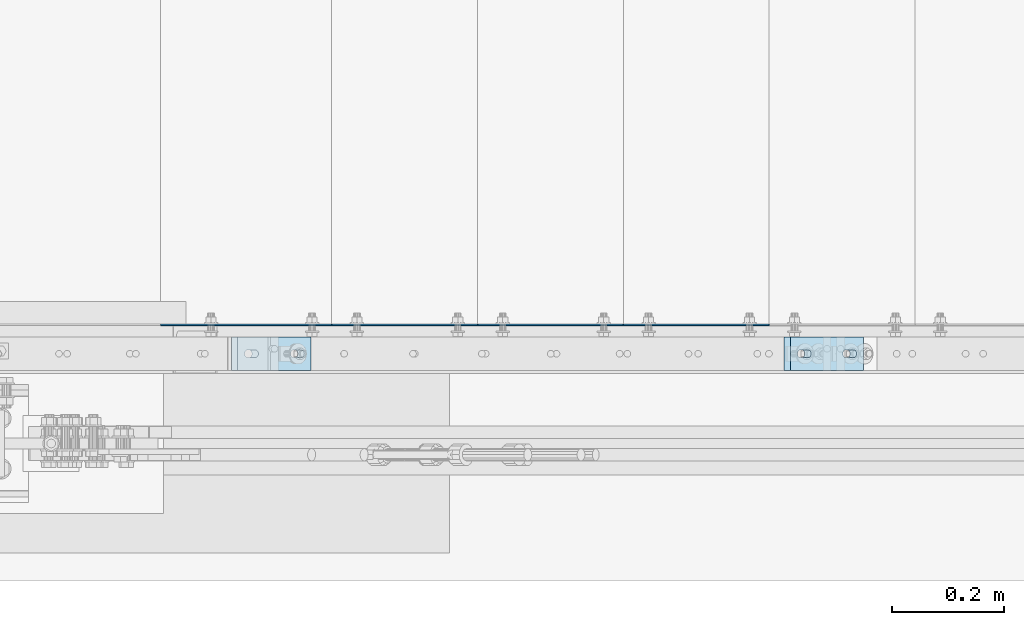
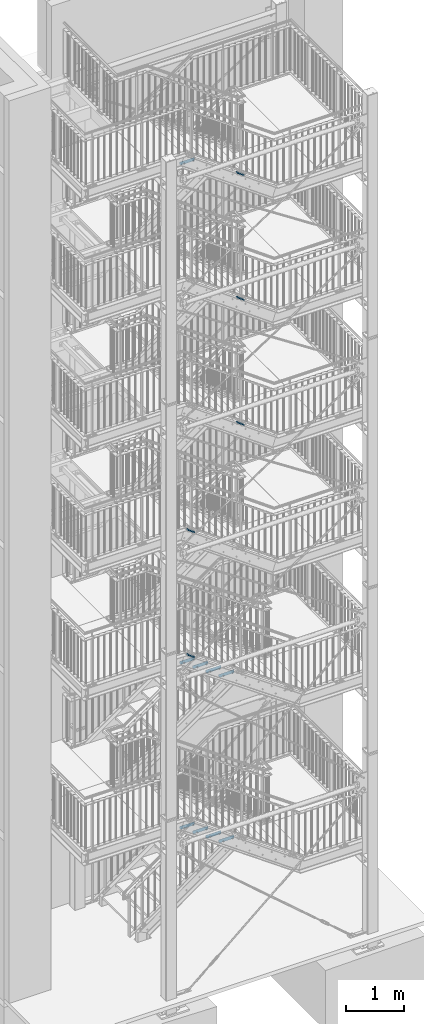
# One storey, part 170 of 831: 14 plates, 28 openings.
"""IFC2X3 building model written with IfcOpenShell, lengths in millimetres."""

from ifc_helpers import new_model, entity, si_unit, converted_unit, point, frame, frame_2d, origin, origin_with_axes, origin_2d_with_axis, place, context, project, spatial, polyline, circle_curve, line_curve, trimmed, segment, composite_curve, circle, outline, extrude, material, layer, layer_set, element, save


model = new_model("IFC2X3")

# Units and contexts
model_context = context("Model", 3, precision=1e-09, world=origin_with_axes())
ifc_project = project(units=[si_unit("LENGTHUNIT", "METRE", prefix="MILLI"), si_unit("AREAUNIT", "SQUARE_METRE"), si_unit("VOLUMEUNIT", "CUBIC_METRE"), converted_unit("PLANEANGLEUNIT", "DEGREE", entity("IfcPlaneAngleMeasure", 0.01745329), si_unit("PLANEANGLEUNIT", "RADIAN"), dimensions=[0, 0, 0, 0, 0, 0, 0])], contexts=[model_context])

# Site, building, storey
site_placement = place(None, origin_with_axes())
site = spatial("IfcSite", under=ifc_project, at=site_placement, Name="Site", CompositionType="ELEMENT")
building_placement = place(site_placement, origin_with_axes())
building = spatial("IfcBuilding", under=site, at=building_placement, Name="Struktur 1", CompositionType="ELEMENT")
storey_placement = place(building_placement, origin_with_axes())
storey = spatial("IfcBuildingStorey", under=building, at=storey_placement, Name="Default Storey", CompositionType="ELEMENT", Elevation=0.0)

# Plate, openings
ifc_material = material(Name="S235JR")
ifc_layer_1 = layer(ifc_material, 20.0)
ifc_layer_set_1 = layer_set([ifc_layer_1], Name="S235JR")
plate_1_placement = place(None, frame((6303.224338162, 4496.736971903, 11849.295542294), z_axis=(0.585213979, 0.0, 0.810878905), x_axis=(0.810878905, 0.0, -0.585213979)))
plate_1 = element("IfcPlate", 1, at=plate_1_placement, inside=storey, material=ifc_layer_set_1, Name="Plate#510", ObjectType="Plate#510", context=model_context, shape_type="SweptSolid", body=[
    extrude(outline(polyline([(0.0, 0.0), (160.0, 0.0), (160.0, 60.0), (0.0, 60.0), (0.0, 0.0)])), origin_with_axes(), (0.0, 0.0, 1.0), 20.0),
])
opening_1_placement = place(plate_1_placement, frame((38.0, 37.001, 20.5), z_axis=(0.0, 0.0, 1.0), x_axis=(-1.0, 0.0, 0.0)))
element("IfcOpeningElement", 2, at=opening_1_placement, cuts=plate_1, ObjectType="Opening", context=model_context, shape_type="SweptSolid", body=[
    extrude(outline(composite_curve([segment(trimmed(line_curve((0.0, 0.0), (1.0, 0.0), 16.0), [point((0.0, 0.0))], [point((16.0, 0.0))], True, "CARTESIAN"), True, "CONTINUOUS"), segment(trimmed(circle_curve(frame_2d((16.0, 7.001), x_axis=(1.0, 0.0)), 7.001), [point((16.0, 0.0))], [point((16.0, 14.002))], True, "CARTESIAN"), True, "CONTINUOUS"), segment(trimmed(line_curve((16.0, 14.002), (-1.0, 0.0), 16.0), [point((16.0, 14.002))], [point((0.0, 14.002))], True, "CARTESIAN"), True, "CONTINUOUS"), segment(trimmed(circle_curve(frame_2d((0.0, 7.001), x_axis=(1.0, 0.0)), 7.001), [point((0.0, 14.002))], [point((0.0, 0.0))], True, "CARTESIAN"), True, "CONTINUOUS")], self_intersect=False)), origin(), (0.0, 0.0, -1.0), 21.0),
])
opening_2_placement = place(plate_1_placement, frame((138.0, 37.001, 20.5), z_axis=(0.0, 0.0, 1.0), x_axis=(-1.0, 0.0, 0.0)))
element("IfcOpeningElement", 3, at=opening_2_placement, cuts=plate_1, ObjectType="Opening", context=model_context, shape_type="SweptSolid", body=[
    extrude(outline(composite_curve([segment(trimmed(line_curve((0.0, 0.0), (1.0, 0.0), 16.0), [point((0.0, 0.0))], [point((16.0, 0.0))], True, "CARTESIAN"), True, "CONTINUOUS"), segment(trimmed(circle_curve(frame_2d((16.0, 7.001), x_axis=(1.0, 0.0)), 7.001), [point((16.0, 0.0))], [point((16.0, 14.002))], True, "CARTESIAN"), True, "CONTINUOUS"), segment(trimmed(line_curve((16.0, 14.002), (-1.0, 0.0), 16.0), [point((16.0, 14.002))], [point((0.0, 14.002))], True, "CARTESIAN"), True, "CONTINUOUS"), segment(trimmed(circle_curve(frame_2d((0.0, 7.001), x_axis=(1.0, 0.0)), 7.001), [point((0.0, 14.002))], [point((0.0, 0.0))], True, "CARTESIAN"), True, "CONTINUOUS")], self_intersect=False)), origin(), (0.0, 0.0, -1.0), 21.0),
])

plate_2_placement = place(None, frame((6303.296368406, 4496.736971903, 14481.899419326), z_axis=(0.586383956, 0.0, 0.810033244), x_axis=(0.810033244, 0.0, -0.586383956)))
plate_2 = element("IfcPlate", 4, at=plate_2_placement, inside=storey, material=ifc_layer_set_1, Name="Plate#510", ObjectType="Plate#510", context=model_context, shape_type="SweptSolid", body=[
    extrude(outline(polyline([(0.0, 0.0), (160.0, 0.0), (160.0, 60.0), (0.0, 60.0), (0.0, 0.0)])), origin_with_axes(), (0.0, 0.0, 1.0), 20.0),
])
opening_3_placement = place(plate_2_placement, frame((38.0, 37.001, 20.5), z_axis=(0.0, 0.0, 1.0), x_axis=(-1.0, 0.0, 0.0)))
element("IfcOpeningElement", 5, at=opening_3_placement, cuts=plate_2, ObjectType="Opening", context=model_context, shape_type="SweptSolid", body=[
    extrude(outline(composite_curve([segment(trimmed(line_curve((0.0, 0.0), (1.0, 0.0), 16.0), [point((0.0, 0.0))], [point((16.0, 0.0))], True, "CARTESIAN"), True, "CONTINUOUS"), segment(trimmed(circle_curve(frame_2d((16.0, 7.001), x_axis=(1.0, 0.0)), 7.001), [point((16.0, 0.0))], [point((16.0, 14.002))], True, "CARTESIAN"), True, "CONTINUOUS"), segment(trimmed(line_curve((16.0, 14.002), (-1.0, 0.0), 16.0), [point((16.0, 14.002))], [point((0.0, 14.002))], True, "CARTESIAN"), True, "CONTINUOUS"), segment(trimmed(circle_curve(frame_2d((0.0, 7.001), x_axis=(1.0, 0.0)), 7.001), [point((0.0, 14.002))], [point((0.0, 0.0))], True, "CARTESIAN"), True, "CONTINUOUS")], self_intersect=False)), origin(), (0.0, 0.0, -1.0), 21.0),
])
opening_4_placement = place(plate_2_placement, frame((138.0, 37.001, 20.5), z_axis=(0.0, 0.0, 1.0), x_axis=(-1.0, 0.0, 0.0)))
element("IfcOpeningElement", 6, at=opening_4_placement, cuts=plate_2, ObjectType="Opening", context=model_context, shape_type="SweptSolid", body=[
    extrude(outline(composite_curve([segment(trimmed(line_curve((0.0, 0.0), (1.0, 0.0), 16.0), [point((0.0, 0.0))], [point((16.0, 0.0))], True, "CARTESIAN"), True, "CONTINUOUS"), segment(trimmed(circle_curve(frame_2d((16.0, 7.001), x_axis=(1.0, 0.0)), 7.001), [point((16.0, 0.0))], [point((16.0, 14.002))], True, "CARTESIAN"), True, "CONTINUOUS"), segment(trimmed(line_curve((16.0, 14.002), (-1.0, 0.0), 16.0), [point((16.0, 14.002))], [point((0.0, 14.002))], True, "CARTESIAN"), True, "CONTINUOUS"), segment(trimmed(circle_curve(frame_2d((0.0, 7.001), x_axis=(1.0, 0.0)), 7.001), [point((0.0, 14.002))], [point((0.0, 0.0))], True, "CARTESIAN"), True, "CONTINUOUS")], self_intersect=False)), origin(), (0.0, 0.0, -1.0), 21.0),
])

plate_3_placement = place(None, frame((6303.161306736, 4496.736971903, 17106.391893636), z_axis=(0.584187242, 0.0, 0.811618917), x_axis=(0.811618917, 0.0, -0.584187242)))
plate_3 = element("IfcPlate", 7, at=plate_3_placement, inside=storey, material=ifc_layer_set_1, Name="Plate#510", ObjectType="Plate#510", context=model_context, shape_type="SweptSolid", body=[
    extrude(outline(polyline([(0.0, 0.0), (160.0, 0.0), (160.0, 60.0), (0.0, 60.0), (0.0, 0.0)])), origin_with_axes(), (0.0, 0.0, 1.0), 20.0),
])
opening_5_placement = place(plate_3_placement, frame((38.0, 37.001, 20.5), z_axis=(0.0, 0.0, 1.0), x_axis=(-1.0, 0.0, 0.0)))
element("IfcOpeningElement", 8, at=opening_5_placement, cuts=plate_3, ObjectType="Opening", context=model_context, shape_type="SweptSolid", body=[
    extrude(outline(composite_curve([segment(trimmed(line_curve((0.0, 0.0), (1.0, 0.0), 16.0), [point((0.0, 0.0))], [point((16.0, 0.0))], True, "CARTESIAN"), True, "CONTINUOUS"), segment(trimmed(circle_curve(frame_2d((16.0, 7.001), x_axis=(1.0, 0.0)), 7.001), [point((16.0, 0.0))], [point((16.0, 14.002))], True, "CARTESIAN"), True, "CONTINUOUS"), segment(trimmed(line_curve((16.0, 14.002), (-1.0, 0.0), 16.0), [point((16.0, 14.002))], [point((0.0, 14.002))], True, "CARTESIAN"), True, "CONTINUOUS"), segment(trimmed(circle_curve(frame_2d((0.0, 7.001), x_axis=(1.0, 0.0)), 7.001), [point((0.0, 14.002))], [point((0.0, 0.0))], True, "CARTESIAN"), True, "CONTINUOUS")], self_intersect=False)), origin(), (0.0, 0.0, -1.0), 21.0),
])
opening_6_placement = place(plate_3_placement, frame((138.0, 37.001, 20.5), z_axis=(0.0, 0.0, 1.0), x_axis=(-1.0, 0.0, 0.0)))
element("IfcOpeningElement", 9, at=opening_6_placement, cuts=plate_3, ObjectType="Opening", context=model_context, shape_type="SweptSolid", body=[
    extrude(outline(composite_curve([segment(trimmed(line_curve((0.0, 0.0), (1.0, 0.0), 16.0), [point((0.0, 0.0))], [point((16.0, 0.0))], True, "CARTESIAN"), True, "CONTINUOUS"), segment(trimmed(circle_curve(frame_2d((16.0, 7.001), x_axis=(1.0, 0.0)), 7.001), [point((16.0, 0.0))], [point((16.0, 14.002))], True, "CARTESIAN"), True, "CONTINUOUS"), segment(trimmed(line_curve((16.0, 14.002), (-1.0, 0.0), 16.0), [point((16.0, 14.002))], [point((0.0, 14.002))], True, "CARTESIAN"), True, "CONTINUOUS"), segment(trimmed(circle_curve(frame_2d((0.0, 7.001), x_axis=(1.0, 0.0)), 7.001), [point((0.0, 14.002))], [point((0.0, 0.0))], True, "CARTESIAN"), True, "CONTINUOUS")], self_intersect=False)), origin(), (0.0, 0.0, -1.0), 21.0),
])

ifc_layer_2 = layer(ifc_material, 3.0)
ifc_layer_set_2 = layer_set([ifc_layer_2], Name="S235JR")
plate_4_placement = place(None, frame((5496.713402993, 4576.736971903, 17686.8571429), z_axis=(0.0, 1.0, 0.0), x_axis=(0.0, 0.0, -1.0)))
plate_4 = element("IfcPlate", 10, at=plate_4_placement, inside=storey, material=ifc_layer_set_2, Name="Grate_Step#37", ObjectType="Grate_Step#37", context=model_context, shape_type="SweptSolid", body=[
    extrude(outline(polyline([(0.0, 0.0), (70.0, 0.0), (70.0, 275.0), (40.0, 305.0), (0.0, 305.0), (0.0, 0.0)])), origin_with_axes(), (0.0, 0.0, 1.0), 3.0),
])
opening_7_placement = place(plate_4_placement, frame((55.0, 35.0, 3.5), z_axis=(0.0, 0.0, -1.0), x_axis=(0.0, 1.0, 0.0)))
element("IfcOpeningElement", 11, at=opening_7_placement, cuts=plate_4, ObjectType="Opening", context=model_context, shape_type="SweptSolid", body=[
    extrude(circle(Radius=7.001, at=origin_2d_with_axis()), origin(), (0.0, 0.0, 1.0), 4.0),
])
opening_8_placement = place(plate_4_placement, frame((55.0, 215.0, 3.5), z_axis=(0.0, 0.0, -1.0), x_axis=(0.0, 1.0, 0.0)))
element("IfcOpeningElement", 12, at=opening_8_placement, cuts=plate_4, ObjectType="Opening", context=model_context, shape_type="SweptSolid", body=[
    extrude(outline(composite_curve([segment(trimmed(line_curve((-9.5, -7.001), (1.0, 0.0), 19.0), [point((-9.5, -7.001))], [point((9.5, -7.001))], True, "CARTESIAN"), True, "CONTINUOUS"), segment(trimmed(circle_curve(frame_2d((9.5, 0.0), x_axis=(1.0, 0.0)), 7.001), [point((9.5, -7.001))], [point((9.5, 7.001))], True, "CARTESIAN"), True, "CONTINUOUS"), segment(trimmed(line_curve((9.5, 7.001), (-1.0, 0.0), 19.0), [point((9.5, 7.001))], [point((-9.5, 7.001))], True, "CARTESIAN"), True, "CONTINUOUS"), segment(trimmed(circle_curve(frame_2d((-9.5, 0.0), x_axis=(1.0, 0.0)), 7.001), [point((-9.5, 7.001))], [point((-9.5, -7.001))], True, "CARTESIAN"), True, "CONTINUOUS")], self_intersect=False)), origin(), (0.0, 0.0, 1.0), 4.0),
])

plate_5_placement = place(None, frame((5756.713402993, 4576.736971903, 3516.7894736), z_axis=(0.0, 1.0, 0.0), x_axis=(0.0, 0.0, -1.0)))
plate_5 = element("IfcPlate", 13, at=plate_5_placement, inside=storey, material=ifc_layer_set_2, Name="Grate_Step#44", ObjectType="Grate_Step#44", context=model_context, shape_type="SweptSolid", body=[
    extrude(outline(polyline([(0.0, 0.0), (70.0, 0.0), (70.0, 275.0), (40.0, 305.0), (0.0, 305.0), (0.0, 0.0)])), origin_with_axes(), (0.0, 0.0, 1.0), 3.0),
])
opening_9_placement = place(plate_5_placement, frame((55.0, 35.0, 3.5), z_axis=(0.0, 0.0, -1.0), x_axis=(0.0, 1.0, 0.0)))
element("IfcOpeningElement", 14, at=opening_9_placement, cuts=plate_5, ObjectType="Opening", context=model_context, shape_type="SweptSolid", body=[
    extrude(circle(Radius=7.001, at=origin_2d_with_axis()), origin(), (0.0, 0.0, 1.0), 4.0),
])
opening_10_placement = place(plate_5_placement, frame((55.0, 215.0, 3.5), z_axis=(0.0, 0.0, -1.0), x_axis=(0.0, 1.0, 0.0)))
element("IfcOpeningElement", 15, at=opening_10_placement, cuts=plate_5, ObjectType="Opening", context=model_context, shape_type="SweptSolid", body=[
    extrude(outline(composite_curve([segment(trimmed(line_curve((-9.5, -7.001), (1.0, 0.0), 19.0), [point((-9.5, -7.001))], [point((9.5, -7.001))], True, "CARTESIAN"), True, "CONTINUOUS"), segment(trimmed(circle_curve(frame_2d((9.5, 0.0), x_axis=(1.0, 0.0)), 7.001), [point((9.5, -7.001))], [point((9.5, 7.001))], True, "CARTESIAN"), True, "CONTINUOUS"), segment(trimmed(line_curve((9.5, 7.001), (-1.0, 0.0), 19.0), [point((9.5, 7.001))], [point((-9.5, 7.001))], True, "CARTESIAN"), True, "CONTINUOUS"), segment(trimmed(circle_curve(frame_2d((-9.5, 0.0), x_axis=(1.0, 0.0)), 7.001), [point((-9.5, 7.001))], [point((-9.5, -7.001))], True, "CARTESIAN"), True, "CONTINUOUS")], self_intersect=False)), origin(), (0.0, 0.0, 1.0), 4.0),
])

plate_6_placement = place(None, frame((6016.713402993, 4576.736971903, 3331.6842104), z_axis=(0.0, 1.0, 0.0), x_axis=(0.0, 0.0, -1.0)))
plate_6 = element("IfcPlate", 16, at=plate_6_placement, inside=storey, material=ifc_layer_set_2, Name="Grate_Step#37", ObjectType="Grate_Step#37", context=model_context, shape_type="SweptSolid", body=[
    extrude(outline(polyline([(0.0, 0.0), (70.0, 0.0), (70.0, 275.0), (40.0, 305.0), (0.0, 305.0), (0.0, 0.0)])), origin_with_axes(), (0.0, 0.0, 1.0), 3.0),
])
opening_11_placement = place(plate_6_placement, frame((55.0, 215.0, 3.5), z_axis=(0.0, 0.0, -1.0), x_axis=(0.0, 1.0, 0.0)))
element("IfcOpeningElement", 17, at=opening_11_placement, cuts=plate_6, ObjectType="Opening", context=model_context, shape_type="SweptSolid", body=[
    extrude(outline(composite_curve([segment(trimmed(line_curve((-9.5, -7.001), (1.0, 0.0), 19.0), [point((-9.5, -7.001))], [point((9.5, -7.001))], True, "CARTESIAN"), True, "CONTINUOUS"), segment(trimmed(circle_curve(frame_2d((9.5, 0.0), x_axis=(1.0, 0.0)), 7.001), [point((9.5, -7.001))], [point((9.5, 7.001))], True, "CARTESIAN"), True, "CONTINUOUS"), segment(trimmed(line_curve((9.5, 7.001), (-1.0, 0.0), 19.0), [point((9.5, 7.001))], [point((-9.5, 7.001))], True, "CARTESIAN"), True, "CONTINUOUS"), segment(trimmed(circle_curve(frame_2d((-9.5, 0.0), x_axis=(1.0, 0.0)), 7.001), [point((-9.5, 7.001))], [point((-9.5, -7.001))], True, "CARTESIAN"), True, "CONTINUOUS")], self_intersect=False)), origin(), (0.0, 0.0, 1.0), 4.0),
])
opening_12_placement = place(plate_6_placement, frame((55.0, 35.0, 3.5), z_axis=(0.0, 0.0, -1.0), x_axis=(0.0, 1.0, 0.0)))
element("IfcOpeningElement", 18, at=opening_12_placement, cuts=plate_6, ObjectType="Opening", context=model_context, shape_type="SweptSolid", body=[
    extrude(circle(Radius=7.001, at=origin_2d_with_axis()), origin(), (0.0, 0.0, 1.0), 4.0),
])

plate_7_placement = place(None, frame((6016.713402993, 4576.736971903, 6811.6315789), z_axis=(0.0, 1.0, 0.0), x_axis=(0.0, 0.0, -1.0)))
plate_7 = element("IfcPlate", 19, at=plate_7_placement, inside=storey, material=ifc_layer_set_2, Name="Grate_Step#37", ObjectType="Grate_Step#37", context=model_context, shape_type="SweptSolid", body=[
    extrude(outline(polyline([(0.0, 0.0), (70.0, 0.0), (70.0, 275.0), (40.0, 305.0), (0.0, 305.0), (0.0, 0.0)])), origin_with_axes(), (0.0, 0.0, 1.0), 3.0),
])
opening_13_placement = place(plate_7_placement, frame((55.0, 215.0, 3.5), z_axis=(0.0, 0.0, -1.0), x_axis=(0.0, 1.0, 0.0)))
element("IfcOpeningElement", 20, at=opening_13_placement, cuts=plate_7, ObjectType="Opening", context=model_context, shape_type="SweptSolid", body=[
    extrude(outline(composite_curve([segment(trimmed(line_curve((-9.5, -7.001), (1.0, 0.0), 19.0), [point((-9.5, -7.001))], [point((9.5, -7.001))], True, "CARTESIAN"), True, "CONTINUOUS"), segment(trimmed(circle_curve(frame_2d((9.5, 0.0), x_axis=(1.0, 0.0)), 7.001), [point((9.5, -7.001))], [point((9.5, 7.001))], True, "CARTESIAN"), True, "CONTINUOUS"), segment(trimmed(line_curve((9.5, 7.001), (-1.0, 0.0), 19.0), [point((9.5, 7.001))], [point((-9.5, 7.001))], True, "CARTESIAN"), True, "CONTINUOUS"), segment(trimmed(circle_curve(frame_2d((-9.5, 0.0), x_axis=(1.0, 0.0)), 7.001), [point((-9.5, 7.001))], [point((-9.5, -7.001))], True, "CARTESIAN"), True, "CONTINUOUS")], self_intersect=False)), origin(), (0.0, 0.0, 1.0), 4.0),
])
opening_14_placement = place(plate_7_placement, frame((55.0, 35.0, 3.5), z_axis=(0.0, 0.0, -1.0), x_axis=(0.0, 1.0, 0.0)))
element("IfcOpeningElement", 21, at=opening_14_placement, cuts=plate_7, ObjectType="Opening", context=model_context, shape_type="SweptSolid", body=[
    extrude(circle(Radius=7.001, at=origin_2d_with_axis()), origin(), (0.0, 0.0, 1.0), 4.0),
])

plate_8_placement = place(None, frame((6276.713402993, 4576.736971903, 6628.8421052), z_axis=(0.0, 1.0, 0.0), x_axis=(0.0, 0.0, -1.0)))
plate_8 = element("IfcPlate", 22, at=plate_8_placement, inside=storey, material=ifc_layer_set_2, Name="Grate_Step#30", ObjectType="Grate_Step#30", context=model_context, shape_type="SweptSolid", body=[
    extrude(outline(polyline([(0.0, 0.0), (70.0, 0.0), (70.0, 275.0), (40.0, 305.0), (0.0, 305.0), (0.0, 0.0)])), origin_with_axes(), (0.0, 0.0, 1.0), 3.0),
])
opening_15_placement = place(plate_8_placement, frame((55.0, 35.0, 3.5), z_axis=(0.0, 0.0, -1.0), x_axis=(0.0, 1.0, 0.0)))
element("IfcOpeningElement", 23, at=opening_15_placement, cuts=plate_8, ObjectType="Opening", context=model_context, shape_type="SweptSolid", body=[
    extrude(circle(Radius=7.001, at=origin_2d_with_axis()), origin(), (0.0, 0.0, 1.0), 4.0),
])
opening_16_placement = place(plate_8_placement, frame((55.0, 215.0, 3.5), z_axis=(0.0, 0.0, -1.0), x_axis=(0.0, 1.0, 0.0)))
element("IfcOpeningElement", 24, at=opening_16_placement, cuts=plate_8, ObjectType="Opening", context=model_context, shape_type="SweptSolid", body=[
    extrude(outline(composite_curve([segment(trimmed(line_curve((-9.5, -7.001), (1.0, 0.0), 19.0), [point((-9.5, -7.001))], [point((9.5, -7.001))], True, "CARTESIAN"), True, "CONTINUOUS"), segment(trimmed(circle_curve(frame_2d((9.5, 0.0), x_axis=(1.0, 0.0)), 7.001), [point((9.5, -7.001))], [point((9.5, 7.001))], True, "CARTESIAN"), True, "CONTINUOUS"), segment(trimmed(line_curve((9.5, 7.001), (-1.0, 0.0), 19.0), [point((9.5, 7.001))], [point((-9.5, 7.001))], True, "CARTESIAN"), True, "CONTINUOUS"), segment(trimmed(circle_curve(frame_2d((-9.5, 0.0), x_axis=(1.0, 0.0)), 7.001), [point((-9.5, 7.001))], [point((-9.5, -7.001))], True, "CARTESIAN"), True, "CONTINUOUS")], self_intersect=False)), origin(), (0.0, 0.0, 1.0), 4.0),
])

plate_9_placement = place(None, frame((5496.713402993, 4576.736971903, 7177.2105263), z_axis=(0.0, 1.0, 0.0), x_axis=(0.0, 0.0, -1.0)))
plate_9 = element("IfcPlate", 25, at=plate_9_placement, inside=storey, material=ifc_layer_set_2, Name="Grate_Step#51", ObjectType="Grate_Step#51", context=model_context, shape_type="SweptSolid", body=[
    extrude(outline(polyline([(0.0, 0.0), (70.0, 0.0), (70.0, 275.0), (40.0, 305.0), (0.0, 305.0), (0.0, 0.0)])), origin_with_axes(), (0.0, 0.0, 1.0), 3.0),
])
opening_17_placement = place(plate_9_placement, frame((55.0, 215.0, 3.5), z_axis=(0.0, 0.0, -1.0), x_axis=(0.0, 1.0, 0.0)))
element("IfcOpeningElement", 26, at=opening_17_placement, cuts=plate_9, ObjectType="Opening", context=model_context, shape_type="SweptSolid", body=[
    extrude(outline(composite_curve([segment(trimmed(line_curve((-9.5, -7.001), (1.0, 0.0), 19.0), [point((-9.5, -7.001))], [point((9.5, -7.001))], True, "CARTESIAN"), True, "CONTINUOUS"), segment(trimmed(circle_curve(frame_2d((9.5, 0.0), x_axis=(1.0, 0.0)), 7.001), [point((9.5, -7.001))], [point((9.5, 7.001))], True, "CARTESIAN"), True, "CONTINUOUS"), segment(trimmed(line_curve((9.5, 7.001), (-1.0, 0.0), 19.0), [point((9.5, 7.001))], [point((-9.5, 7.001))], True, "CARTESIAN"), True, "CONTINUOUS"), segment(trimmed(circle_curve(frame_2d((-9.5, 0.0), x_axis=(1.0, 0.0)), 7.001), [point((-9.5, 7.001))], [point((-9.5, -7.001))], True, "CARTESIAN"), True, "CONTINUOUS")], self_intersect=False)), origin(), (0.0, 0.0, 1.0), 4.0),
])
opening_18_placement = place(plate_9_placement, frame((55.0, 35.0, 3.5), z_axis=(0.0, 0.0, -1.0), x_axis=(0.0, 1.0, 0.0)))
element("IfcOpeningElement", 27, at=opening_18_placement, cuts=plate_9, ObjectType="Opening", context=model_context, shape_type="SweptSolid", body=[
    extrude(circle(Radius=7.001, at=origin_2d_with_axis()), origin(), (0.0, 0.0, 1.0), 4.0),
])

plate_10_placement = place(None, frame((5496.713402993, 4576.736971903, 3701.8947368), z_axis=(0.0, 1.0, 0.0), x_axis=(0.0, 0.0, -1.0)))
plate_10 = element("IfcPlate", 28, at=plate_10_placement, inside=storey, material=ifc_layer_set_2, Name="Grate_Step#51", ObjectType="Grate_Step#51", context=model_context, shape_type="SweptSolid", body=[
    extrude(outline(polyline([(0.0, 0.0), (70.0, 0.0), (70.0, 275.0), (40.0, 305.0), (0.0, 305.0), (0.0, 0.0)])), origin_with_axes(), (0.0, 0.0, 1.0), 3.0),
])
opening_19_placement = place(plate_10_placement, frame((55.0, 215.0, 3.5), z_axis=(0.0, 0.0, -1.0), x_axis=(0.0, 1.0, 0.0)))
element("IfcOpeningElement", 29, at=opening_19_placement, cuts=plate_10, ObjectType="Opening", context=model_context, shape_type="SweptSolid", body=[
    extrude(outline(composite_curve([segment(trimmed(line_curve((-9.5, -7.001), (1.0, 0.0), 19.0), [point((-9.5, -7.001))], [point((9.5, -7.001))], True, "CARTESIAN"), True, "CONTINUOUS"), segment(trimmed(circle_curve(frame_2d((9.5, 0.0), x_axis=(1.0, 0.0)), 7.001), [point((9.5, -7.001))], [point((9.5, 7.001))], True, "CARTESIAN"), True, "CONTINUOUS"), segment(trimmed(line_curve((9.5, 7.001), (-1.0, 0.0), 19.0), [point((9.5, 7.001))], [point((-9.5, 7.001))], True, "CARTESIAN"), True, "CONTINUOUS"), segment(trimmed(circle_curve(frame_2d((-9.5, 0.0), x_axis=(1.0, 0.0)), 7.001), [point((-9.5, 7.001))], [point((-9.5, -7.001))], True, "CARTESIAN"), True, "CONTINUOUS")], self_intersect=False)), origin(), (0.0, 0.0, 1.0), 4.0),
])
opening_20_placement = place(plate_10_placement, frame((55.0, 35.0, 3.5), z_axis=(0.0, 0.0, -1.0), x_axis=(0.0, 1.0, 0.0)))
element("IfcOpeningElement", 30, at=opening_20_placement, cuts=plate_10, ObjectType="Opening", context=model_context, shape_type="SweptSolid", body=[
    extrude(circle(Radius=7.001, at=origin_2d_with_axis()), origin(), (0.0, 0.0, 1.0), 4.0),
])

plate_11_placement = place(None, frame((6276.713402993, 4576.736971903, 3146.5789472), z_axis=(0.0, 1.0, 0.0), x_axis=(0.0, 0.0, -1.0)))
plate_11 = element("IfcPlate", 31, at=plate_11_placement, inside=storey, material=ifc_layer_set_2, Name="Grate_Step#30", ObjectType="Grate_Step#30", context=model_context, shape_type="SweptSolid", body=[
    extrude(outline(polyline([(0.0, 0.0), (70.0, 0.0), (70.0, 275.0), (40.0, 305.0), (0.0, 305.0), (0.0, 0.0)])), origin_with_axes(), (0.0, 0.0, 1.0), 3.0),
])
opening_21_placement = place(plate_11_placement, frame((55.0, 35.0, 3.5), z_axis=(0.0, 0.0, -1.0), x_axis=(0.0, 1.0, 0.0)))
element("IfcOpeningElement", 32, at=opening_21_placement, cuts=plate_11, ObjectType="Opening", context=model_context, shape_type="SweptSolid", body=[
    extrude(circle(Radius=7.001, at=origin_2d_with_axis()), origin(), (0.0, 0.0, 1.0), 4.0),
])
opening_22_placement = place(plate_11_placement, frame((55.0, 215.0, 3.5), z_axis=(0.0, 0.0, -1.0), x_axis=(0.0, 1.0, 0.0)))
element("IfcOpeningElement", 33, at=opening_22_placement, cuts=plate_11, ObjectType="Opening", context=model_context, shape_type="SweptSolid", body=[
    extrude(outline(composite_curve([segment(trimmed(line_curve((-9.5, -7.001), (1.0, 0.0), 19.0), [point((-9.5, -7.001))], [point((9.5, -7.001))], True, "CARTESIAN"), True, "CONTINUOUS"), segment(trimmed(circle_curve(frame_2d((9.5, 0.0), x_axis=(1.0, 0.0)), 7.001), [point((9.5, -7.001))], [point((9.5, 7.001))], True, "CARTESIAN"), True, "CONTINUOUS"), segment(trimmed(line_curve((9.5, 7.001), (-1.0, 0.0), 19.0), [point((9.5, 7.001))], [point((-9.5, 7.001))], True, "CARTESIAN"), True, "CONTINUOUS"), segment(trimmed(circle_curve(frame_2d((-9.5, 0.0), x_axis=(1.0, 0.0)), 7.001), [point((-9.5, 7.001))], [point((-9.5, -7.001))], True, "CARTESIAN"), True, "CONTINUOUS")], self_intersect=False)), origin(), (0.0, 0.0, 1.0), 4.0),
])

plate_12_placement = place(None, frame((5756.713402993, 4576.736971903, 6994.4210526), z_axis=(0.0, 1.0, 0.0), x_axis=(0.0, 0.0, -1.0)))
plate_12 = element("IfcPlate", 34, at=plate_12_placement, inside=storey, material=ifc_layer_set_2, Name="Grate_Step#44", ObjectType="Grate_Step#44", context=model_context, shape_type="SweptSolid", body=[
    extrude(outline(polyline([(0.0, 0.0), (70.0, 0.0), (70.0, 275.0), (40.0, 305.0), (0.0, 305.0), (0.0, 0.0)])), origin_with_axes(), (0.0, 0.0, 1.0), 3.0),
])
opening_23_placement = place(plate_12_placement, frame((55.0, 215.0, 3.5), z_axis=(0.0, 0.0, -1.0), x_axis=(0.0, 1.0, 0.0)))
element("IfcOpeningElement", 35, at=opening_23_placement, cuts=plate_12, ObjectType="Opening", context=model_context, shape_type="SweptSolid", body=[
    extrude(outline(composite_curve([segment(trimmed(line_curve((-9.5, -7.001), (1.0, 0.0), 19.0), [point((-9.5, -7.001))], [point((9.5, -7.001))], True, "CARTESIAN"), True, "CONTINUOUS"), segment(trimmed(circle_curve(frame_2d((9.5, 0.0), x_axis=(1.0, 0.0)), 7.001), [point((9.5, -7.001))], [point((9.5, 7.001))], True, "CARTESIAN"), True, "CONTINUOUS"), segment(trimmed(line_curve((9.5, 7.001), (-1.0, 0.0), 19.0), [point((9.5, 7.001))], [point((-9.5, 7.001))], True, "CARTESIAN"), True, "CONTINUOUS"), segment(trimmed(circle_curve(frame_2d((-9.5, 0.0), x_axis=(1.0, 0.0)), 7.001), [point((-9.5, 7.001))], [point((-9.5, -7.001))], True, "CARTESIAN"), True, "CONTINUOUS")], self_intersect=False)), origin(), (0.0, 0.0, 1.0), 4.0),
])
opening_24_placement = place(plate_12_placement, frame((55.0, 35.0, 3.5), z_axis=(0.0, 0.0, -1.0), x_axis=(0.0, 1.0, 0.0)))
element("IfcOpeningElement", 36, at=opening_24_placement, cuts=plate_12, ObjectType="Opening", context=model_context, shape_type="SweptSolid", body=[
    extrude(circle(Radius=7.001, at=origin_2d_with_axis()), origin(), (0.0, 0.0, 1.0), 4.0),
])

plate_13_placement = place(None, frame((5317.774118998, 4496.736971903, 7303.011363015), z_axis=(0.57512827, 0.0, 0.818063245), x_axis=(0.818063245, 0.0, -0.57512827)))
plate_13 = element("IfcPlate", 37, at=plate_13_placement, inside=storey, material=ifc_layer_set_1, Name="Plate#511", ObjectType="Plate#511", context=model_context, shape_type="SweptSolid", body=[
    extrude(outline(polyline([(0.0, 0.0), (160.0, 0.0), (160.0, 60.0), (0.0, 60.0), (0.0, 0.0)])), origin_with_axes(), (0.0, 0.0, 1.0), 20.0),
])
opening_25_placement = place(plate_13_placement, frame((38.0, 37.001, 20.5), z_axis=(0.0, 0.0, 1.0), x_axis=(-1.0, 0.0, 0.0)))
element("IfcOpeningElement", 38, at=opening_25_placement, cuts=plate_13, ObjectType="Opening", context=model_context, shape_type="SweptSolid", body=[
    extrude(outline(composite_curve([segment(trimmed(line_curve((0.0, 0.0), (1.0, 0.0), 16.0), [point((0.0, 0.0))], [point((16.0, 0.0))], True, "CARTESIAN"), True, "CONTINUOUS"), segment(trimmed(circle_curve(frame_2d((16.0, 7.001), x_axis=(1.0, 0.0)), 7.001), [point((16.0, 0.0))], [point((16.0, 14.002))], True, "CARTESIAN"), True, "CONTINUOUS"), segment(trimmed(line_curve((16.0, 14.002), (-1.0, 0.0), 16.0), [point((16.0, 14.002))], [point((0.0, 14.002))], True, "CARTESIAN"), True, "CONTINUOUS"), segment(trimmed(circle_curve(frame_2d((0.0, 7.001), x_axis=(1.0, 0.0)), 7.001), [point((0.0, 14.002))], [point((0.0, 0.0))], True, "CARTESIAN"), True, "CONTINUOUS")], self_intersect=False)), origin(), (0.0, 0.0, -1.0), 21.0),
])
opening_26_placement = place(plate_13_placement, frame((138.0, 37.001, 20.5), z_axis=(0.0, 0.0, 1.0), x_axis=(-1.0, 0.0, 0.0)))
element("IfcOpeningElement", 39, at=opening_26_placement, cuts=plate_13, ObjectType="Opening", context=model_context, shape_type="SweptSolid", body=[
    extrude(outline(composite_curve([segment(trimmed(line_curve((0.0, 0.0), (1.0, 0.0), 16.0), [point((0.0, 0.0))], [point((16.0, 0.0))], True, "CARTESIAN"), True, "CONTINUOUS"), segment(trimmed(circle_curve(frame_2d((16.0, 7.001), x_axis=(1.0, 0.0)), 7.001), [point((16.0, 0.0))], [point((16.0, 14.002))], True, "CARTESIAN"), True, "CONTINUOUS"), segment(trimmed(line_curve((16.0, 14.002), (-1.0, 0.0), 16.0), [point((16.0, 14.002))], [point((0.0, 14.002))], True, "CARTESIAN"), True, "CONTINUOUS"), segment(trimmed(circle_curve(frame_2d((0.0, 7.001), x_axis=(1.0, 0.0)), 7.001), [point((0.0, 14.002))], [point((0.0, 0.0))], True, "CARTESIAN"), True, "CONTINUOUS")], self_intersect=False)), origin(), (0.0, 0.0, -1.0), 21.0),
])

plate_14_placement = place(None, frame((5318.269214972, 4496.736971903, 9933.028874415), z_axis=(0.585945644, 0.0, 0.810350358), x_axis=(0.810350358, 0.0, -0.585945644)))
plate_14 = element("IfcPlate", 40, at=plate_14_placement, inside=storey, material=ifc_layer_set_1, Name="Plate#511", ObjectType="Plate#511", context=model_context, shape_type="SweptSolid", body=[
    extrude(outline(polyline([(0.0, 0.0), (160.0, 0.0), (160.0, 60.0), (0.0, 60.0), (0.0, 0.0)])), origin_with_axes(), (0.0, 0.0, 1.0), 20.0),
])
opening_27_placement = place(plate_14_placement, frame((38.0, 37.001, 20.5), z_axis=(0.0, 0.0, 1.0), x_axis=(-1.0, 0.0, 0.0)))
element("IfcOpeningElement", 41, at=opening_27_placement, cuts=plate_14, ObjectType="Opening", context=model_context, shape_type="SweptSolid", body=[
    extrude(outline(composite_curve([segment(trimmed(line_curve((0.0, 0.0), (1.0, 0.0), 16.0), [point((0.0, 0.0))], [point((16.0, 0.0))], True, "CARTESIAN"), True, "CONTINUOUS"), segment(trimmed(circle_curve(frame_2d((16.0, 7.001), x_axis=(1.0, 0.0)), 7.001), [point((16.0, 0.0))], [point((16.0, 14.002))], True, "CARTESIAN"), True, "CONTINUOUS"), segment(trimmed(line_curve((16.0, 14.002), (-1.0, 0.0), 16.0), [point((16.0, 14.002))], [point((0.0, 14.002))], True, "CARTESIAN"), True, "CONTINUOUS"), segment(trimmed(circle_curve(frame_2d((0.0, 7.001), x_axis=(1.0, 0.0)), 7.001), [point((0.0, 14.002))], [point((0.0, 0.0))], True, "CARTESIAN"), True, "CONTINUOUS")], self_intersect=False)), origin(), (0.0, 0.0, -1.0), 21.0),
])
opening_28_placement = place(plate_14_placement, frame((138.0, 37.001, 20.5), z_axis=(0.0, 0.0, 1.0), x_axis=(-1.0, 0.0, 0.0)))
element("IfcOpeningElement", 42, at=opening_28_placement, cuts=plate_14, ObjectType="Opening", context=model_context, shape_type="SweptSolid", body=[
    extrude(outline(composite_curve([segment(trimmed(line_curve((0.0, 0.0), (1.0, 0.0), 16.0), [point((0.0, 0.0))], [point((16.0, 0.0))], True, "CARTESIAN"), True, "CONTINUOUS"), segment(trimmed(circle_curve(frame_2d((16.0, 7.001), x_axis=(1.0, 0.0)), 7.001), [point((16.0, 0.0))], [point((16.0, 14.002))], True, "CARTESIAN"), True, "CONTINUOUS"), segment(trimmed(line_curve((16.0, 14.002), (-1.0, 0.0), 16.0), [point((16.0, 14.002))], [point((0.0, 14.002))], True, "CARTESIAN"), True, "CONTINUOUS"), segment(trimmed(circle_curve(frame_2d((0.0, 7.001), x_axis=(1.0, 0.0)), 7.001), [point((0.0, 14.002))], [point((0.0, 0.0))], True, "CARTESIAN"), True, "CONTINUOUS")], self_intersect=False)), origin(), (0.0, 0.0, -1.0), 21.0),
])

save(model, "model.ifc")
